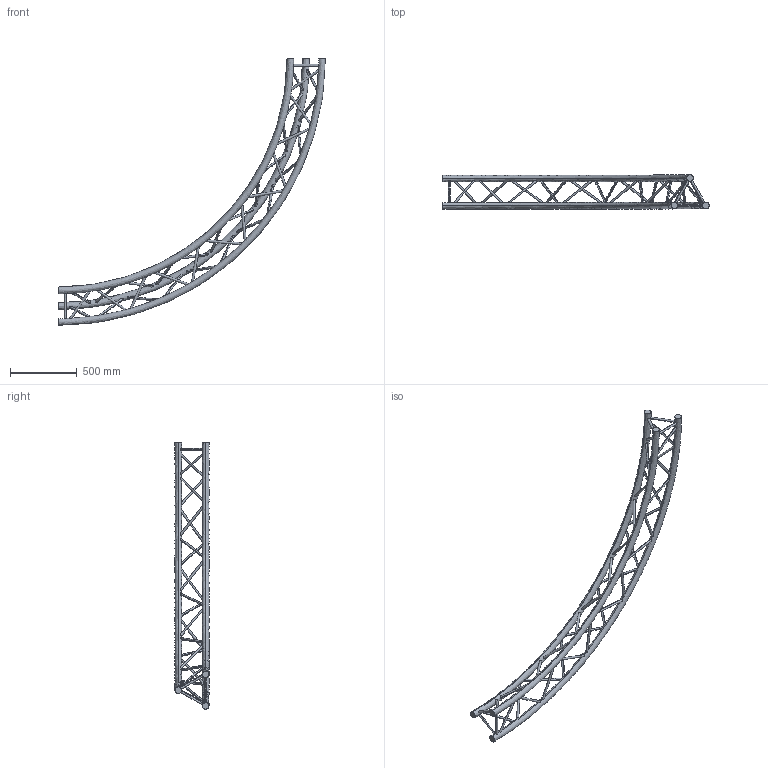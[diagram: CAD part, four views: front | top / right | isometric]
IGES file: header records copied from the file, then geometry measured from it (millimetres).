
Start section: SolidWorks IGES file using analytic representation for surfaces
Global section: file name: K:\BIBLIO\asd_biblio\SX290\Cercles\SXC29400PH\SXC29400PH.IGS; native system: SolidWorks 2009; preprocessor: SolidWorks 2009; author: des3; date: 091021.102340; units: millimetre
Bounding box: 2000 x 255.25 x 2000 mm (x, y, z)
Surface area: 1895061.9 mm2 (no closed solid volume)
Topology: 0 solids, 0 shells, 96 faces, 6790 edges, 6790 vertices
Faces by surface type: revolution 84, bspline 12
